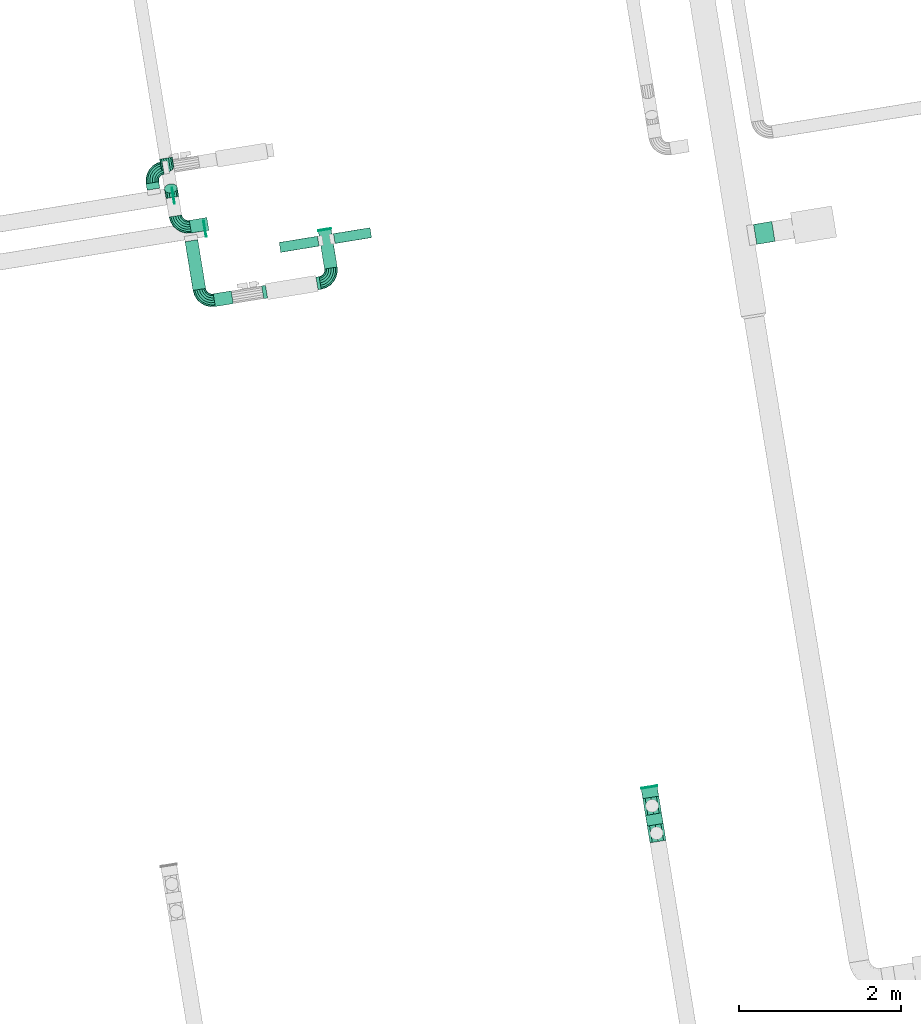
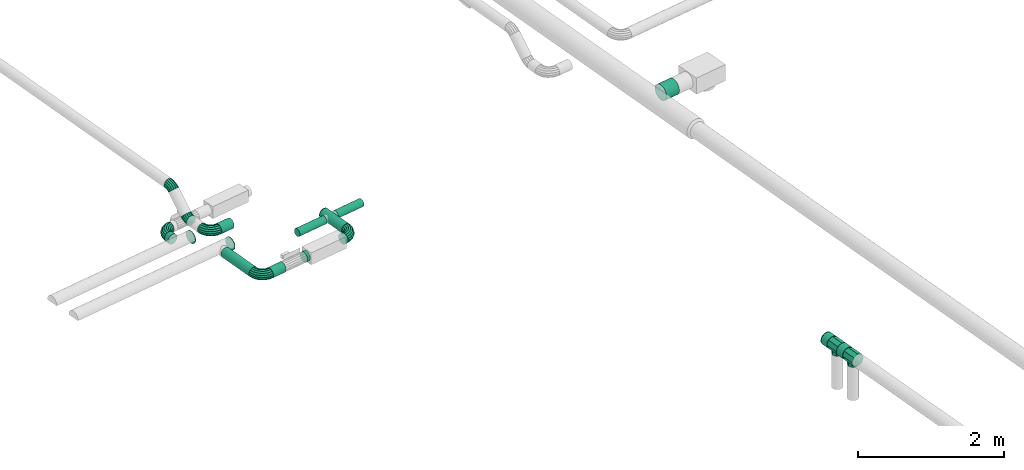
# One storey, part 6 of 19: 12 flow fittings, 12 flow segments.
"""IFC2X3 building model written with IfcOpenShell, lengths in millimetres."""

import ifcopenshell
import ifcopenshell.guid

model = None  # the IFC model being written
_history = None  # IfcOwnerHistory: only IFC2X3 demands one
_inside = {}  # id of a spatial element -> (the spatial element, [elements in it])
_under = {}  # id of a project, library or spatial element -> (it, [spatial elements below it])
_declared = {}  # id of a project -> (the project, [libraries it declares])
_typed = {}  # id of a type object -> (the type object, [elements of that type])
_made_of = {}  # id of a material, layer set ... -> (it, [elements and type objects made of it])


def new_model(schema):
    """Start an empty IFC model of exactly this schema.

    Asked for "IFC4X3", IfcOpenShell would pick the latest addendum, in which some entities
    have other attributes; the version numbers below select the first issue.
    IFC2X3 requires an IfcOwnerHistory on every rooted entity: one is made here for all.
    """
    global model, _history
    if schema == "IFC4X3":
        model = ifcopenshell.file(schema_version=(4, 3, 0, 0))
    else:
        model = ifcopenshell.file(schema=schema)
    _inside.clear()
    _under.clear()
    _declared.clear()
    _typed.clear()
    _made_of.clear()
    _history = None
    if model.schema == "IFC2X3":
        org = make("IfcOrganization", Name="unknown")
        user = make(
            "IfcPersonAndOrganization",
            ThePerson=make("IfcPerson", FamilyName="unknown"),
            TheOrganization=org,
        )
        app = make(
            "IfcApplication",
            ApplicationDeveloper=org,
            Version="unknown",
            ApplicationFullName="unknown",
            ApplicationIdentifier="unknown",
        )
        _history = make(
            "IfcOwnerHistory",
            OwningUser=user,
            OwningApplication=app,
            ChangeAction="ADDED",
            CreationDate=0,
        )
    return model


def make(cls, **values):
    """One entity of the class cls with the attributes given. An attribute that is None is left unset."""
    return model.create_entity(
        cls, **{name: value for name, value in values.items() if value is not None}
    )


def entity(cls, *values):
    """Any entity or typed value of the class cls, its attributes in the order of the schema. None: left unset."""
    e = model.create_entity(cls)
    for i, value in enumerate(values):
        if value is not None:
            e[i] = value
    return e


def rooted(cls, **values):
    """An entity with a GlobalId (a new one), such as an element, a storey or a relation."""
    return make(cls, GlobalId=ifcopenshell.guid.new(), OwnerHistory=_history, **values)


def si_unit(unit_type, name, prefix=None):
    """IfcSIUnit, for example si_unit("LENGTHUNIT", "METRE", prefix="MILLI")."""
    return make("IfcSIUnit", UnitType=unit_type, Prefix=prefix, Name=name)


def converted_unit(unit_type, name, factor, base, dimensions=None, offset=None):
    """IfcConversionBasedUnit, such as the inch: factor (a typed value) times the base unit."""
    return make(
        "IfcConversionBasedUnit"
        if offset is None
        else "IfcConversionBasedUnitWithOffset",
        ConversionOffset=offset,
        Dimensions=None
        if dimensions is None
        else entity("IfcDimensionalExponents", *dimensions),
        UnitType=unit_type,
        Name=name,
        ConversionFactor=make(
            "IfcMeasureWithUnit", ValueComponent=factor, UnitComponent=base
        ),
    )


def derived_unit(unit_type, elements):
    """IfcDerivedUnit: a product of units, each with its exponent."""
    return make(
        "IfcDerivedUnit",
        Elements=[
            make("IfcDerivedUnitElement", Unit=unit, Exponent=power)
            for unit, power in elements
        ],
        UnitType=unit_type,
    )


def assignment(units):
    """IfcUnitAssignment: the units of a project."""
    return None if units is None else make("IfcUnitAssignment", Units=units)


def point(xyz):
    """IfcCartesianPoint."""
    return None if xyz is None else make("IfcCartesianPoint", Coordinates=xyz)


def direction(xyz):
    """IfcDirection."""
    return None if xyz is None else make("IfcDirection", DirectionRatios=xyz)


def frame(location, z_axis=None, x_axis=None):
    """IfcAxis2Placement3D, a coordinate frame: its origin and axes. An axis left out is left unset."""
    return make(
        "IfcAxis2Placement3D",
        Location=point(location),
        Axis=direction(z_axis),
        RefDirection=direction(x_axis),
    )


def frame_2d(location, x_axis=None):
    """IfcAxis2Placement2D, a coordinate frame in the plane: its origin and x axis."""
    return make(
        "IfcAxis2Placement2D", Location=point(location), RefDirection=direction(x_axis)
    )


def origin():
    """The frame at (0, 0, 0) with its axes left unset."""
    return frame((0.0, 0.0, 0.0))


def origin_with_axes():
    """The frame at (0, 0, 0) with the z axis (0, 0, 1) and the x axis (1, 0, 0) written out."""
    return frame((0.0, 0.0, 0.0), z_axis=(0.0, 0.0, 1.0), x_axis=(1.0, 0.0, 0.0))


def origin_2d_with_axis():
    """The frame at (0, 0) in the plane with the x axis (1, 0) written out."""
    return frame_2d((0.0, 0.0), x_axis=(1.0, 0.0))


def place(relative_to, where):
    """IfcLocalPlacement: puts the frame where relative to a parent placement (None: the world)."""
    return make(
        "IfcLocalPlacement", PlacementRelTo=relative_to, RelativePlacement=where
    )


def context(
    kind, dimensions, precision=None, world=None, true_north=None, identifier=None
):
    """IfcGeometricRepresentationContext, for example the 3D "Model" context."""
    return make(
        "IfcGeometricRepresentationContext",
        ContextIdentifier=identifier,
        ContextType=kind,
        CoordinateSpaceDimension=dimensions,
        Precision=precision,
        WorldCoordinateSystem=world,
        TrueNorth=true_north,
    )


def subcontext(parent, identifier, kind, view, scale=None):
    """IfcGeometricRepresentationSubContext, for example "Body" below "Model"."""
    return make(
        "IfcGeometricRepresentationSubContext",
        ContextIdentifier=identifier,
        ContextType=kind,
        ParentContext=parent,
        TargetScale=scale,
        TargetView=view,
    )


def project(units=None, contexts=None):
    """IfcProject with its units and contexts."""
    return rooted(
        "IfcProject",
        Name="project",
        RepresentationContexts=contexts,
        UnitsInContext=assignment(units),
    )


def spatial(cls, under=None, at=None, **own):
    """A site, building, storey or space (cls), placed at a placement, below another one or the project."""
    s = rooted(cls, ObjectPlacement=at, **own)
    if under is not None:
        _under.setdefault(under.id(), (under, []))[1].append(s)
    return s


def profile(cls, at=None, kind="AREA", **sizes):
    """A parametric profile (cls). Its sizes go by their IFC names, for example OverallWidth=200.0."""
    return make(cls, ProfileType=kind, Position=at, **sizes)


def circle(**sizes):
    """IfcCircleProfileDef."""
    return profile("IfcCircleProfileDef", **sizes)


def extrude(swept, where, along, depth):
    """IfcExtrudedAreaSolid: the profile swept, set in the frame where, extruded along a direction by depth."""
    return make(
        "IfcExtrudedAreaSolid",
        SweptArea=swept,
        Position=where,
        ExtrudedDirection=direction(along),
        Depth=depth,
    )


def faces_of(points, faces, orient=None, outer=None):
    """IfcFace entities. A face is a list of loops; a loop is a list of indices into points, from 0.

    orient and outer hold one flag for each loop. By default every Orientation is true, the
    first loop of a face is its IfcFaceOuterBound and the others are IfcFaceBound.
    """
    made = []
    for i, loops in enumerate(faces):
        bounds = []
        for j, loop in enumerate(loops):
            is_outer = j == 0 if outer is None else outer[i][j]
            bounds.append(
                make(
                    "IfcFaceOuterBound" if is_outer else "IfcFaceBound",
                    Bound=make("IfcPolyLoop", Polygon=[points[k] for k in loop]),
                    Orientation=True if orient is None else orient[i][j],
                )
            )
        made.append(make("IfcFace", Bounds=bounds))
    return made


def faceted_brep(points, faces, orient=None, outer=None, voids=None):
    """IfcFacetedBrep: a solid bounded by flat faces; with voids (closed shells), ...WithVoids."""
    shared = [point(p) for p in points]
    hull = make("IfcClosedShell", CfsFaces=faces_of(shared, faces, orient, outer))
    if voids is None:
        return make("IfcFacetedBrep", Outer=hull)
    return make(
        "IfcFacetedBrepWithVoids",
        Outer=hull,
        Voids=[
            make(cls, CfsFaces=faces_of(shared, fs, o, b)) for cls, fs, o, b in voids
        ],
    )


def shape(context_of_items, identifier, shape_type, items):
    """IfcShapeRepresentation: the items that make up one representation, for example the "Body"."""
    return make(
        "IfcShapeRepresentation",
        ContextOfItems=context_of_items,
        RepresentationIdentifier=identifier,
        RepresentationType=shape_type,
        Items=items,
    )


def source(mapping_origin, context_of_items, identifier, shape_type, items):
    """IfcRepresentationMap: a shape defined once, which mapped items show again and again."""
    return make(
        "IfcRepresentationMap",
        MappingOrigin=mapping_origin,
        MappedRepresentation=shape(context_of_items, identifier, shape_type, items),
    )


def transform(
    local_origin,
    x_axis=None,
    y_axis=None,
    z_axis=None,
    scale=None,
    scale2=None,
    scale3=None,
    uniform=True,
):
    """IfcCartesianTransformationOperator3D, or its non-uniform kind. x_axis, y_axis, z_axis: its Axis1, 2, 3."""
    if uniform:
        return make(
            "IfcCartesianTransformationOperator3D",
            Axis1=direction(x_axis),
            Axis2=direction(y_axis),
            LocalOrigin=point(local_origin),
            Scale=scale,
            Axis3=direction(z_axis),
        )
    return make(
        "IfcCartesianTransformationOperator3DnonUniform",
        Axis1=direction(x_axis),
        Axis2=direction(y_axis),
        LocalOrigin=point(local_origin),
        Scale=scale,
        Axis3=direction(z_axis),
        Scale2=scale2,
        Scale3=scale3,
    )


def mapped(mapping_source, mapping_target):
    """IfcMappedItem: shows the shape of a source again, moved by a transform."""
    return make(
        "IfcMappedItem", MappingSource=mapping_source, MappingTarget=mapping_target
    )


def material(Name=None, Category=None):
    """IfcMaterial."""
    return make("IfcMaterial", Name=Name, Category=Category)


def made_of(thing, what):
    """Note that an element or type object is made of a material, layer set ...; save() writes the relation."""
    if what is not None:
        _made_of.setdefault(what.id(), (what, []))[1].append(thing)
    return thing


def type_object(cls, material=None, **own):
    """A type object (cls), such as IfcWallType, which elements share."""
    return made_of(rooted(cls, **own), material)


def element(
    cls,
    number,
    at=None,
    inside=None,
    cuts=None,
    type_object=None,
    material=None,
    context=None,
    identifier="Body",
    shape_type=None,
    held_by="IfcProductDefinitionShape",
    body=None,
    shapes=None,
    **own,
):
    """One element of the class cls, such as IfcWall. Its Tag is "e" and its number.

    at: its placement. inside: the storey or other place that contains it. cuts: it is an
    opening in that element (IfcRelVoidsElement). A single representation is given by context,
    identifier, shape_type and body (its items); several are given by shapes. held_by: the class
    of the entity that holds the representations. save() writes the other relations.
    """
    e = rooted(cls, Tag="e%d" % number, ObjectPlacement=at, **own)
    if body is not None:
        shapes = [shape(context, identifier, shape_type, body)]
    if shapes is not None:
        e.Representation = make(held_by, Representations=shapes)
    if inside is not None:
        _inside.setdefault(inside.id(), (inside, []))[1].append(e)
    if cuts is not None:
        rooted(
            "IfcRelVoidsElement", RelatingBuildingElement=cuts, RelatedOpeningElement=e
        )
    if type_object is not None:
        _typed.setdefault(type_object.id(), (type_object, []))[1].append(e)
    return made_of(e, material)


def aggregate(whole, parts):
    """IfcRelAggregates: a whole, such as a stair, and the parts it consists of."""
    return rooted("IfcRelAggregates", RelatingObject=whole, RelatedObjects=parts)


def save(model, path):
    """Write the relations noted so far, then the file.

    IfcRelAggregates (storeys below a building ...), IfcRelContainedInSpatialStructure (elements
    in a storey), IfcRelDefinesByType, IfcRelAssociatesMaterial and IfcRelDeclares: one each for
    every whole, place, type object, material and project.
    """
    for whole, parts in _under.values():
        aggregate(whole, parts)
    for where, things in _inside.values():
        rooted(
            "IfcRelContainedInSpatialStructure",
            RelatedElements=things,
            RelatingStructure=where,
        )
    for kind, things in _typed.values():
        rooted("IfcRelDefinesByType", RelatedObjects=things, RelatingType=kind)
    for what, things in _made_of.values():
        rooted("IfcRelAssociatesMaterial", RelatedObjects=things, RelatingMaterial=what)
    for by, libraries in _declared.values():
        rooted("IfcRelDeclares", RelatingContext=by, RelatedDefinitions=libraries)
    model.write(path)


model = new_model("IFC2X3")

# Units and contexts
model_context = context("Model", 3, precision=0.01, world=origin(), true_north=direction((6.12323399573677e-17, 1.0)))
plan_context = context("Plan", 3, precision=1e-05, world=origin_with_axes())
body_context = subcontext(model_context, "Body", "Model", "MODEL_VIEW")
ifc_project = project(units=[converted_unit("PLANEANGLEUNIT", "DEGREE", entity("IfcPositiveLengthMeasure", 0.0174532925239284), si_unit("PLANEANGLEUNIT", "RADIAN"), dimensions=[0, 0, 0, 0, 0, 0, 0]), si_unit("AREAUNIT", "SQUARE_METRE"), si_unit("LENGTHUNIT", "METRE", prefix="MILLI"), si_unit("MASSUNIT", "GRAM", prefix="KILO"), si_unit("POWERUNIT", "WATT"), si_unit("PRESSUREUNIT", "PASCAL", prefix="KILO"), si_unit("FORCEUNIT", "NEWTON", prefix="KILO"), si_unit("ELECTRICVOLTAGEUNIT", "VOLT"), si_unit("ELECTRICCURRENTUNIT", "AMPERE"), si_unit("THERMODYNAMICTEMPERATUREUNIT", "DEGREE_CELSIUS"), si_unit("TIMEUNIT", "SECOND"), si_unit("VOLUMEUNIT", "CUBIC_METRE"), derived_unit("LINEARVELOCITYUNIT", [(si_unit("LENGTHUNIT", "METRE"), 1), (si_unit("TIMEUNIT", "SECOND"), -1)]), derived_unit("VOLUMETRICFLOWRATEUNIT", [(si_unit("VOLUMEUNIT", "CUBIC_METRE"), 1), (si_unit("TIMEUNIT", "SECOND"), -1)]), derived_unit("THERMALTRANSMITTANCEUNIT", [(si_unit("POWERUNIT", "WATT"), 1), (si_unit("THERMODYNAMICTEMPERATUREUNIT", "KELVIN"), -1), (si_unit("AREAUNIT", "SQUARE_METRE"), -1)]), derived_unit("SOUNDPRESSUREUNIT", [(si_unit("PRESSUREUNIT", "PASCAL"), 1)])], contexts=[model_context, plan_context])

# Site, building, storey
site_placement = place(None, frame((5.09380697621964e-08, 5.80416781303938e-08, 0.0), z_axis=(0.0, 0.0, 1.0), x_axis=(-0.160806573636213, 0.986985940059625, 0.0)))
site = spatial("IfcSite", under=ifc_project, at=site_placement, Name="Default", CompositionType="ELEMENT")
building_placement = place(site_placement, frame((0.0, 0.0, 0.0), z_axis=(0.0, 0.0, 1.0), x_axis=(1.0, -2.77555756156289e-17, 0.0)))
building = spatial("IfcBuilding", under=site, at=building_placement, Name="Bygning (endres i Project Information)", CompositionType="ELEMENT")
storey_placement = place(building_placement, frame((0.0, 0.0, 51360.0000000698), z_axis=(0.0, 0.0, 1.0), x_axis=(1.0, -2.77555756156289e-17, 0.0)))
storey = spatial("IfcBuildingStorey", under=building, at=storey_placement, Name="H01-Nivå D+0,36", CompositionType="ELEMENT", Elevation=51360.0000000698)

# Flow fittings
ifc_material_1 = material(Name="DF_Material1")
duct_fitting_type_1 = type_object("IfcDuctFittingType", Name="Lindab TCPU:TCPU", PredefinedType="NOTDEFINED", material=ifc_material_1)
shared_shape_1 = source(origin(), body_context, "Body", "Brep", [
    faceted_brep([(80.0000001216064, -125.0, 0.0), (56.5685425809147, -125.0, 56.5685425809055), (0.0, -125.0, 80.0000001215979), (-56.5685425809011, -125.0, 56.5685425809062), (-80.0000001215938, -125.0, 0.0), (-56.568542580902, -125.0, -56.5685425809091), (0.0, -125.0, -80.0000001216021), (56.568542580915, -125.0, -56.568542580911), (-60.636107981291, -85.3037959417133, 52.1848869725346), (0.0, -60.0000000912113, 80.0000001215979), (-80.0000001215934, -100.000000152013, 0.0), (-70.3180540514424, -92.6518980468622, 26.092443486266), (-65.5820813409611, -89.4264237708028, -30.7499125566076), (-51.1641625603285, -78.852847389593, -61.4998251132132), (0.0, -60.0000000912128, -80.0000001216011), (60.6361079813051, -85.303795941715, -52.1848869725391), (80.0000001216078, -100.000000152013, 0.0), (70.3180540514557, -92.651898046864, -26.0924434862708), (65.5794107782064, -89.424691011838, 30.7521341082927), (51.1588214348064, -78.8493818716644, 61.504268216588), (-104.499999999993, -100.000000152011, 0.0), (-104.499999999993, -92.6776696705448, 17.677669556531), (-104.499999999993, -85.3553391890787, 35.3553391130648), (-104.499999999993, -70.7106782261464, 70.7106782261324), (-104.499999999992, 0.0, 100.000000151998), (-104.499999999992, 70.7106782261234, 70.7106782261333), (-104.499999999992, 100.000000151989, 0.0), (-104.499999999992, 70.7106782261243, -70.7106782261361), (-104.499999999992, 0.0, -100.000000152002), (-104.499999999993, -70.7106782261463, -70.7106782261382), (-104.499999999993, -85.3553391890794, -35.3553391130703), (104.500000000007, -70.7106782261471, 70.7106782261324), (104.500000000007, -85.3553391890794, 35.3553391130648), (104.500000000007, -100.000000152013, 0.0), (104.500000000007, -92.6776696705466, -17.6776695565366), (104.500000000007, -85.3553391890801, -35.3553391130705), (104.500000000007, -70.710678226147, -70.7106782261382), (104.500000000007, 0.0, -100.000000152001), (104.500000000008, 70.7106782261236, -70.7106782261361), (104.500000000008, 100.000000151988, 0.0), (104.500000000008, 70.7106782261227, 70.7106782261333), (104.500000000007, 0.0, 100.000000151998)], [[[0, 1, 2, 3, 4, 5, 6, 7]], [[2, 8, 3]], [[8, 2, 9]], [[10, 4, 3]], [[3, 8, 11, 10]], [[4, 10, 5]], [[5, 10, 12, 13]], [[13, 14, 6]], [[13, 6, 5]], [[6, 15, 7]], [[15, 6, 14]], [[16, 0, 7]], [[7, 15, 17, 16]], [[0, 16, 1]], [[1, 16, 18, 19]], [[19, 9, 2]], [[19, 2, 1]], [[20, 21, 22, 23, 24, 25, 26, 27, 28, 29, 30]], [[31, 32, 33, 34, 35, 36, 37, 38, 39, 40, 41]], [[24, 41, 40, 25]], [[40, 39, 26, 25]], [[39, 38, 27, 26]], [[38, 37, 28, 27]], [[37, 36, 14]], [[28, 14, 29]], [[14, 28, 37]], [[13, 29, 14]], [[17, 35, 34]], [[14, 36, 15]], [[35, 17, 15]], [[34, 16, 17]], [[30, 13, 12]], [[20, 30, 12]], [[15, 36, 35]], [[16, 34, 33]], [[13, 30, 29]], [[20, 12, 10]], [[11, 22, 21]], [[33, 18, 16]], [[11, 8, 22]], [[10, 21, 20]], [[32, 19, 18]], [[21, 10, 11]], [[32, 18, 33]], [[9, 19, 31]], [[31, 19, 32]], [[9, 31, 41]], [[23, 9, 24]], [[23, 8, 9]], [[24, 9, 41]], [[8, 23, 22]]]),
])
for number, where, z_axis, x_axis in (
    (1, (1000004.89913365, -391132.73177938, 3820.00000015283), (-2.77555756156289e-17, -1.0, 0.0), (1.0, -2.77555756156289e-17, 0.0)),
    (2, (1000347.1737039, -391132.73177938, 3820.00000015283), (-2.77555756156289e-17, -1.0, 0.0), (1.0, -2.77555756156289e-17, 0.0)),
):
    element("IfcFlowFitting", number, at=place(storey_placement, frame(where, z_axis=z_axis, x_axis=x_axis)), inside=storey, type_object=duct_fitting_type_1, material=ifc_material_1, Name="Lindab TCPU:TCPU", ObjectType="Lindab TCPU:TCPU", context=body_context, shape_type="MappedRepresentation", body=[
        mapped(shared_shape_1, transform((0.0, 0.0, 0.0), scale=1.0)),
    ])
duct_fitting_type_2 = type_object("IfcDuctFittingType", Name="Lindab ESU:ESU", PredefinedType="NOTDEFINED", material=ifc_material_1)
shared_shape_2 = source(origin(), body_context, "Body", "SweptSolid", [
    extrude(circle(Radius=100.000000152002, at=frame_2d((-1.7386373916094e-13, -5.59979039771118e-13), x_axis=(1.0, 0.0))), frame((0.0, 0.0, 0.0), z_axis=(1.0, 0.0, 0.0), x_axis=(0.0, 1.0, 0.0)), (0.0, 0.0, 1.0), 10.0000000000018),
])
for number, where, z_axis, x_axis in (
    (3, (1000575.1737039, -391132.73177938, 3820.00000015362), (0.0, 0.0, 1.0), (1.0, -2.77555756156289e-17, 0.0)),
    (4, (1008255.86764294, -386829.918778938, 3150.0), (0.0, 0.0, 1.0), (-2.77555756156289e-17, -1.0, 0.0)),
    (5, (1008718.36764294, -386509.918778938, 3150.0), (0.0, 0.0, 1.0), (-2.77555756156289e-17, -1.0, 0.0)),
):
    element("IfcFlowFitting", number, at=place(storey_placement, frame(where, z_axis=z_axis, x_axis=x_axis)), inside=storey, type_object=duct_fitting_type_2, material=ifc_material_1, Name="Lindab ESU:ESU", ObjectType="Lindab ESU:ESU", context=body_context, shape_type="MappedRepresentation", body=[
        mapped(shared_shape_2, transform((0.0, 0.0, 0.0), scale=1.0)),
    ])
ifc_material_2 = material(Name="3601.001 Tilluft")
duct_fitting_type_3 = type_object("IfcDuctFittingType", Name="magicirc_elbow_full_radius_NOR:magicirc_elbow_full_radius_NOR", PredefinedType="NOTDEFINED", material=ifc_material_2)
shared_shape_3 = source(origin(), body_context, "Body", "Brep", [
    faceted_brep([(-4.15759916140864, -71.822198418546, 0.0), (-5.73371330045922, -65.9400603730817, 30.6146746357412), (-66.2741700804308, -73.9103627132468, 30.6146746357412), (-66.2741700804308, -80.0000001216, 0.0), (-10.2221066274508, -49.1891484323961, 56.5685425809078), (-66.2741700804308, -56.5685425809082, 56.5685425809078), (-16.9394619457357, -24.1196370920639, 73.9103627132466), (-66.2741700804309, -30.6146746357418, 73.9103627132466), (-24.8631228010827, 5.45186780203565, 80.0000001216), (-66.2741700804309, 0.0, 80.0000001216), (-32.7867836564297, 35.0233726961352, 73.9103627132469), (-66.274170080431, 30.6146746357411, 73.9103627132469), (-39.5041389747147, 60.0928840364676, 56.5685425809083), (-66.274170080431, 56.5685425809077, 56.5685425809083), (-43.9925323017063, 76.8437959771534, 30.6146746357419), (-66.274170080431, 73.9103627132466, 30.6146746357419), (-45.5686464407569, 82.725934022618, 0.0), (-66.274170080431, 80.0000001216, 0.0), (-43.9925323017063, 76.8437959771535, -30.6146746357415), (-66.274170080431, 73.9103627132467, -30.6146746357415), (-39.5041389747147, 60.0928840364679, -56.568542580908), (-66.274170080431, 56.568542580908, -56.568542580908), (-32.7867836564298, 35.0233726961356, -73.9103627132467), (-66.274170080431, 30.6146746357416, -73.9103627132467), (-24.8631228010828, 5.45186780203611, -80.0000001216), (-66.2741700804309, 0.0, -80.0000001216), (-16.9394619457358, -24.1196370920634, -73.9103627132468), (-66.2741700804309, -30.6146746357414, -73.9103627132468), (-10.2221066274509, -49.1891484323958, -56.5685425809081), (-66.2741700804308, -56.5685425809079, -56.5685425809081), (-5.73371330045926, -65.9400603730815, -30.6146746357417), (-66.2741700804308, -73.9103627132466, -30.6146746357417), (53.7258301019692, -47.8460969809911, 0.0), (50.6810113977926, -42.5723162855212, 30.6146746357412), (42.0101013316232, -27.5538595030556, 56.5685425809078), (29.03316735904, -5.07715053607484, 73.9103627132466), (13.7258300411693, 21.4359354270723, 80.0000001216), (-1.58150727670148, 47.9490213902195, 73.9103627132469), (-14.5584412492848, 70.4257303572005, 56.5685425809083), (-23.2293513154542, 85.4441871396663, 30.6146746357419), (-26.274170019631, 90.7179678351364, 0.0), (-23.2293513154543, 85.4441871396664, -30.6146746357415), (-14.558441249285, 70.4257303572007, -56.568542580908), (-1.5815072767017, 47.9490213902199, -73.9103627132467), (13.725830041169, 21.4359354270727, -80.0000001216), (29.0331673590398, -5.07715053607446, -73.9103627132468), (42.0101013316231, -27.5538595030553, -56.5685425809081), (50.6810113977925, -42.5723162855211, -30.6146746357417), (103.431457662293, -9.70562749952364, 0.0), (99.1254337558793, -5.39960359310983, 30.6146746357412), (86.8629151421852, 6.86291502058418, 56.5685425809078), (68.5107591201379, 25.2150710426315, 73.9103627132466), (46.8629150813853, 46.8629150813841, 80.0000001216), (25.2150710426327, 68.5107591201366, 73.9103627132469), (6.86291502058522, 86.8629151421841, 56.5685425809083), (-5.39960359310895, 99.1254337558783, 30.6146746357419), (-9.70562749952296, 103.431457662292, 0.0), (-5.39960359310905, 99.1254337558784, -30.6146746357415), (6.86291502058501, 86.8629151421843, -56.568542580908), (25.2150710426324, 68.510759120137, -73.9103627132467), (46.862915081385, 46.8629150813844, -80.0000001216), (68.5107591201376, 25.2150710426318, -73.9103627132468), (86.862915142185, 6.8629150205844, -56.5685425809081), (99.1254337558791, -5.3996035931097, -30.6146746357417)], [[[0, 1, 2, 3]], [[1, 4, 5, 2]], [[4, 6, 7, 5]], [[6, 8, 9, 7]], [[8, 10, 11, 9]], [[10, 12, 13, 11]], [[12, 14, 15, 13]], [[14, 16, 17, 15]], [[16, 18, 19, 17]], [[18, 20, 21, 19]], [[20, 22, 23, 21]], [[22, 24, 25, 23]], [[24, 26, 27, 25]], [[26, 28, 29, 27]], [[28, 30, 31, 29]], [[30, 0, 3, 31]], [[32, 33, 1, 0]], [[33, 34, 4, 1]], [[34, 35, 6, 4]], [[35, 36, 8, 6]], [[36, 37, 10, 8]], [[37, 38, 12, 10]], [[38, 39, 14, 12]], [[39, 40, 16, 14]], [[40, 41, 18, 16]], [[41, 42, 20, 18]], [[42, 43, 22, 20]], [[43, 44, 24, 22]], [[44, 45, 26, 24]], [[45, 46, 28, 26]], [[46, 47, 30, 28]], [[47, 32, 0, 30]], [[48, 49, 33, 32]], [[49, 50, 34, 33]], [[50, 51, 35, 34]], [[51, 52, 36, 35]], [[52, 53, 37, 36]], [[53, 54, 38, 37]], [[54, 55, 39, 38]], [[55, 56, 40, 39]], [[56, 57, 41, 40]], [[57, 58, 42, 41]], [[58, 59, 43, 42]], [[59, 60, 44, 43]], [[60, 61, 45, 44]], [[61, 62, 46, 45]], [[62, 63, 47, 46]], [[63, 48, 32, 47]], [[3, 2, 5, 7, 9, 11, 13, 15, 17, 19, 21, 23, 25, 27, 29, 31]], [[63, 62, 61, 60, 59, 58, 57, 56, 55, 54, 53, 52, 51, 50, 49, 48]]]),
])
for number, where, z_axis, x_axis, name in (
    (6, (1009123.99004626, -386501.39713563, 3799.99999996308), (-2.77555756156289e-17, -1.0, 0.0), (-1.0, 2.77555756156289e-17, 0.0), "magicirc_elbow_full_radius_NOR:magicirc_elbow_full_radius_NOR"),
    (7, (1008765.35022764, -386501.39713563, 3441.36018133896), (0.0, 1.0, 0.0), (-0.707106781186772, 0.0, -0.707106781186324), "magicirc_elbow_full_radius_NOR:magicirc_elbow_full_radius_NOR"),
):
    element("IfcFlowFitting", number, at=place(storey_placement, frame(where, z_axis=z_axis, x_axis=x_axis)), inside=storey, type_object=duct_fitting_type_3, material=ifc_material_2, Name=name, ObjectType="magicirc_elbow_full_radius_NOR:magicirc_elbow_full_radius_NOR", context=body_context, shape_type="MappedRepresentation", body=[
        mapped(shared_shape_3, transform((0.0, 0.0, 0.0), scale=1.0)),
    ])
duct_fitting_type_4 = type_object("IfcDuctFittingType", Name="magicirc_elbow_full_radius_NOR:magicirc_elbow_full_radius_NOR", PredefinedType="NOTDEFINED", material=ifc_material_2)
shared_shape_4 = source(origin(), body_context, "Body", "Brep", [
    faceted_brep([(-97.8834293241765, -71.822198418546, 0.0), (-99.4595434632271, -65.9400603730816, 30.6146746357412), (-160.000000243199, -73.9103627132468, 30.6146746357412), (-160.000000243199, -80.0000001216, 0.0), (-103.947936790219, -49.189148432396, 56.5685425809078), (-160.000000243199, -56.5685425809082, 56.5685425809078), (-110.665292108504, -24.1196370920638, 73.9103627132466), (-160.000000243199, -30.6146746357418, 73.9103627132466), (-118.588952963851, 5.45186780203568, 80.0000001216), (-160.000000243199, 0.0, 80.0000001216), (-126.512613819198, 35.0233726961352, 73.9103627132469), (-160.000000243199, 30.6146746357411, 73.9103627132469), (-133.229969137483, 60.0928840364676, 56.5685425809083), (-160.000000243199, 56.5685425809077, 56.5685425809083), (-137.718362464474, 76.8437959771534, 30.6146746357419), (-160.000000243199, 73.9103627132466, 30.6146746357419), (-139.294476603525, 82.725934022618, 0.0), (-160.000000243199, 80.0000001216, 0.0), (-137.718362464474, 76.8437959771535, -30.6146746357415), (-160.000000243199, 73.9103627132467, -30.6146746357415), (-133.229969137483, 60.0928840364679, -56.568542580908), (-160.000000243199, 56.568542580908, -56.568542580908), (-126.512613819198, 35.0233726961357, -73.9103627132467), (-160.000000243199, 30.6146746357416, -73.9103627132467), (-118.588952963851, 5.45186780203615, -80.0000001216), (-160.000000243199, 0.0, -80.0000001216), (-110.665292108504, -24.1196370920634, -73.9103627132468), (-160.000000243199, -30.6146746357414, -73.9103627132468), (-103.947936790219, -49.1891484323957, -56.5685425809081), (-160.000000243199, -56.5685425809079, -56.5685425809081), (-99.4595434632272, -65.9400603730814, -30.6146746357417), (-160.000000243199, -73.9103627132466, -30.6146746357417), (-40.0000000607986, -47.846096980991, 0.0), (-43.0448187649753, -42.5723162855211, 30.6146746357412), (-51.7157288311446, -27.5538595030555, 56.5685425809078), (-64.6926628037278, -5.07715053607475, 73.9103627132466), (-80.0000001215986, 21.4359354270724, 80.0000001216), (-95.3073374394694, 47.9490213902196, 73.9103627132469), (-108.284271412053, 70.4257303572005, 56.5685425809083), (-116.955181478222, 85.4441871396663, 30.6146746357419), (-120.000000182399, 90.7179678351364, 0.0), (-116.955181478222, 85.4441871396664, -30.6146746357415), (-108.284271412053, 70.4257303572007, -56.568542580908), (-95.3073374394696, 47.94902139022, -73.9103627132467), (-80.0000001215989, 21.4359354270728, -80.0000001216), (-64.6926628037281, -5.07715053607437, -73.9103627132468), (-51.7157288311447, -27.5538595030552, -56.5685425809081), (-43.0448187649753, -42.5723162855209, -30.6146746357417), (9.70562749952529, -9.70562749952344, 0.0), (5.39960359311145, -5.39960359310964, 30.6146746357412), (-6.86291502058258, 6.86291502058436, 56.5685425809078), (-25.21507104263, 25.2150710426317, 73.9103627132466), (-46.8629150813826, 46.8629150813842, 80.0000001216), (-68.5107591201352, 68.5107591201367, 73.9103627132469), (-86.8629151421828, 86.8629151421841, 56.5685425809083), (-99.125433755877, 99.1254337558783, 30.6146746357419), (-103.431457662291, 103.431457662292, 0.0), (-99.1254337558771, 99.1254337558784, -30.6146746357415), (-86.862915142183, 86.8629151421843, -56.568542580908), (-68.5107591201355, 68.510759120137, -73.9103627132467), (-46.8629150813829, 46.8629150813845, -80.0000001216), (-25.2150710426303, 25.215071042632, -73.9103627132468), (-6.8629150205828, 6.86291502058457, -56.5685425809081), (5.39960359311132, -5.39960359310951, -30.6146746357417), (47.8460969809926, 40.0000000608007, 0.0), (42.5723162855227, 43.0448187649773, 30.6146746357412), (27.553859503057, 51.7157288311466, 56.5685425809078), (5.07715053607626, 64.6926628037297, 73.9103627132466), (-21.435935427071, 80.0000001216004, 80.0000001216), (-47.9490213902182, 95.307337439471, 73.9103627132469), (-70.4257303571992, 108.284271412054, 56.5685425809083), (-85.444187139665, 116.955181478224, 30.6146746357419), (-90.7179678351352, 120.0000001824, 0.0), (-85.4441871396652, 116.955181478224, -30.6146746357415), (-70.4257303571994, 108.284271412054, -56.568542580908), (-47.9490213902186, 95.3073374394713, -73.9103627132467), (-21.4359354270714, 80.0000001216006, -80.0000001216), (5.07715053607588, 64.6926628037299, -73.9103627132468), (27.5538595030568, 51.7157288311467, -56.5685425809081), (42.5723162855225, 43.0448187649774, -30.6146746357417), (71.8221984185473, 97.8834293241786, 0.0), (65.9400603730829, 99.4595434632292, 30.6146746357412), (49.1891484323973, 103.947936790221, 56.5685425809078), (24.1196370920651, 110.665292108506, 73.9103627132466), (-5.45186780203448, 118.588952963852, 80.0000001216), (-35.0233726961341, 126.512613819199, 73.9103627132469), (-60.0928840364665, 133.229969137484, 56.5685425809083), (-76.8437959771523, 137.718362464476, 30.6146746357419), (-82.7259340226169, 139.294476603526, 0.0), (-76.8437959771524, 137.718362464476, -30.6146746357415), (-60.0928840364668, 133.229969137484, -56.568542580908), (-35.0233726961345, 126.512613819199, -73.9103627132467), (-5.45186780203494, 118.588952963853, -80.0000001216), (24.1196370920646, 110.665292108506, -73.9103627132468), (49.189148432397, 103.947936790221, -56.5685425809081), (65.9400603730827, 99.4595434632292, -30.6146746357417), (80.000000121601, 160.000000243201, 0.0), (73.9103627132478, 160.000000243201, 30.6146746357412), (56.5685425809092, 160.000000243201, 56.5685425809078), (30.6146746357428, 160.000000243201, 73.9103627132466), (0.0, 160.000000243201, 80.0000001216), (-30.6146746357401, 160.000000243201, 73.9103627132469), (-56.5685425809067, 160.000000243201, 56.5685425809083), (-73.9103627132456, 160.000000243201, 30.6146746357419), (-80.000000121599, 160.000000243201, 0.0), (-73.9103627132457, 160.000000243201, -30.6146746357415), (-56.568542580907, 160.000000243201, -56.568542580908), (-30.6146746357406, 160.000000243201, -73.9103627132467), (0.0, 160.000000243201, -80.0000001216), (30.6146746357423, 160.000000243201, -73.9103627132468), (56.5685425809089, 160.000000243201, -56.5685425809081), (73.9103627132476, 160.000000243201, -30.6146746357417)], [[[0, 1, 2, 3]], [[1, 4, 5, 2]], [[4, 6, 7, 5]], [[6, 8, 9, 7]], [[8, 10, 11, 9]], [[10, 12, 13, 11]], [[12, 14, 15, 13]], [[14, 16, 17, 15]], [[16, 18, 19, 17]], [[18, 20, 21, 19]], [[20, 22, 23, 21]], [[22, 24, 25, 23]], [[24, 26, 27, 25]], [[26, 28, 29, 27]], [[28, 30, 31, 29]], [[30, 0, 3, 31]], [[32, 33, 1, 0]], [[33, 34, 4, 1]], [[34, 35, 6, 4]], [[35, 36, 8, 6]], [[36, 37, 10, 8]], [[37, 38, 12, 10]], [[38, 39, 14, 12]], [[39, 40, 16, 14]], [[40, 41, 18, 16]], [[41, 42, 20, 18]], [[42, 43, 22, 20]], [[43, 44, 24, 22]], [[44, 45, 26, 24]], [[45, 46, 28, 26]], [[46, 47, 30, 28]], [[47, 32, 0, 30]], [[48, 49, 33, 32]], [[49, 50, 34, 33]], [[50, 51, 35, 34]], [[51, 52, 36, 35]], [[52, 53, 37, 36]], [[53, 54, 38, 37]], [[54, 55, 39, 38]], [[55, 56, 40, 39]], [[56, 57, 41, 40]], [[57, 58, 42, 41]], [[58, 59, 43, 42]], [[59, 60, 44, 43]], [[60, 61, 45, 44]], [[61, 62, 46, 45]], [[62, 63, 47, 46]], [[63, 48, 32, 47]], [[64, 65, 49, 48]], [[65, 66, 50, 49]], [[66, 67, 51, 50]], [[67, 68, 52, 51]], [[68, 69, 53, 52]], [[69, 70, 54, 53]], [[70, 71, 55, 54]], [[71, 72, 56, 55]], [[72, 73, 57, 56]], [[73, 74, 58, 57]], [[74, 75, 59, 58]], [[75, 76, 60, 59]], [[76, 77, 61, 60]], [[77, 78, 62, 61]], [[78, 79, 63, 62]], [[79, 64, 48, 63]], [[80, 81, 65, 64]], [[81, 82, 66, 65]], [[82, 83, 67, 66]], [[83, 84, 68, 67]], [[84, 85, 69, 68]], [[85, 86, 70, 69]], [[86, 87, 71, 70]], [[87, 88, 72, 71]], [[88, 89, 73, 72]], [[89, 90, 74, 73]], [[90, 91, 75, 74]], [[91, 92, 76, 75]], [[92, 93, 77, 76]], [[93, 94, 78, 77]], [[94, 95, 79, 78]], [[95, 80, 64, 79]], [[96, 97, 81, 80]], [[97, 98, 82, 81]], [[98, 99, 83, 82]], [[99, 100, 84, 83]], [[100, 101, 85, 84]], [[101, 102, 86, 85]], [[102, 103, 87, 86]], [[103, 104, 88, 87]], [[104, 105, 89, 88]], [[105, 106, 90, 89]], [[106, 107, 91, 90]], [[107, 108, 92, 91]], [[108, 109, 93, 92]], [[109, 110, 94, 93]], [[110, 111, 95, 94]], [[111, 96, 80, 95]], [[3, 2, 5, 7, 9, 11, 13, 15, 17, 19, 21, 23, 25, 27, 29, 31]], [[111, 110, 109, 108, 107, 106, 105, 104, 103, 102, 101, 100, 99, 98, 97, 96]]]),
])
for number, where, z_axis, x_axis, name in (
    (8, (1008308.49004626, -386501.39713563, 3441.3601817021), (0.0, 0.0, 1.0), (-1.0, 2.77555756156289e-17, 0.0), "magicirc_elbow_full_radius_NOR:magicirc_elbow_full_radius_NOR"),
    (9, (1009078.36764293, -386287.343203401, 3150.0), (0.0, 0.0, 1.0), (2.77555756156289e-17, 1.0, 0.0), "magicirc_elbow_full_radius_NOR:magicirc_elbow_full_radius_NOR"),
    (10, (1007366.69116253, -388289.812917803, 3150.0), (0.0, 0.0, 1.0), (-2.77555756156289e-17, -1.0, 0.0), "magicirc_elbow_full_radius_NOR:magicirc_elbow_full_radius_NOR"),
    (11, (1007366.69116253, -386647.343203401, 3150.0), (0.0, 0.0, 1.0), (-1.0, 2.77555756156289e-17, 0.0), "magicirc_elbow_full_radius_NOR:magicirc_elbow_full_radius_NOR"),
):
    element("IfcFlowFitting", number, at=place(storey_placement, frame(where, z_axis=z_axis, x_axis=x_axis)), inside=storey, type_object=duct_fitting_type_4, material=ifc_material_2, Name=name, ObjectType="magicirc_elbow_full_radius_NOR:magicirc_elbow_full_radius_NOR", context=body_context, shape_type="MappedRepresentation", body=[
        mapped(shared_shape_4, transform((0.0, 0.0, 0.0), scale=1.0)),
    ])
duct_fitting_type_5 = type_object("IfcDuctFittingType", Name="Lindab ESU:ESU", PredefinedType="NOTDEFINED", material=ifc_material_1)
shared_shape_5 = source(origin(), body_context, "Body", "SweptSolid", [
    extrude(circle(Radius=80.0000001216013, at=frame_2d((3.79414923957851e-15, 3.2423154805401e-13), x_axis=(1.0, 0.0))), frame((0.0, 0.0, 0.0), z_axis=(1.0, 0.0, 0.0), x_axis=(0.0, -1.0, 0.0)), (0.0, 0.0, 1.0), 10.0000000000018),
])
flow_fitting_placement = place(storey_placement, frame((1008001.90440273, -388289.812917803, 3150.0), z_axis=(0.0, 0.0, 1.0), x_axis=(1.0, -2.77555756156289e-17, 0.0)))
element("IfcFlowFitting", 12, at=flow_fitting_placement, inside=storey, type_object=duct_fitting_type_5, material=ifc_material_1, Name="Lindab ESU:ESU", ObjectType="Lindab ESU:ESU", context=body_context, shape_type="MappedRepresentation", body=[
    mapped(shared_shape_5, transform((0.0, 0.0, 0.0), scale=1.0)),
])

# Flow segments
duct_segment_type = type_object("IfcDuctSegmentType", Name="Round Duct:Sirkulær kanal", PredefinedType="NOTDEFINED", material=ifc_material_2)
flow_segment_1_placement = place(storey_placement, frame((0.0, 0.0, 0.0), z_axis=(0.0, 0.0, 1.0), x_axis=(1.0, -2.77555756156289e-17, 0.0)))
element("IfcFlowSegment", 13, at=flow_segment_1_placement, inside=storey, type_object=duct_segment_type, Name="Round Duct:Sirkulær kanal", ObjectType="Round Duct:Sirkulær kanal", context=body_context, shape_type="SweptSolid", body=[
    extrude(circle(Radius=100.000000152, at=frame_2d((0.0, -8.66293703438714e-12), x_axis=(1.0, 0.0))), frame((1000109.39913365, -391132.73177938, 3820.00000015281), z_axis=(1.0, 0.0, 0.0), x_axis=(0.0, 1.0, 0.0)), (0.0, 0.0, 1.0), 133.274570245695),
])
flow_segment_2_placement = place(storey_placement, frame((0.0, 0.0, 0.0), z_axis=(0.0, 0.0, 1.0), x_axis=(1.0, -2.77555756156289e-17, 0.0)))
element("IfcFlowSegment", 14, at=flow_segment_2_placement, inside=storey, type_object=duct_segment_type, Name="Round Duct:Sirkulær kanal", ObjectType="Round Duct:Sirkulær kanal", context=body_context, shape_type="SweptSolid", body=[
    extrude(circle(Radius=100.000000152, at=frame_2d((0.0, -8.66293703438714e-12), x_axis=(1.0, 0.0))), frame((1000451.6737039, -391132.73177938, 3820.00000015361), z_axis=(1.0, 0.0, 0.0), x_axis=(0.0, -1.0, 0.0)), (0.0, 0.0, 1.0), 123.499999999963),
])
flow_segment_3_placement = place(storey_placement, frame((0.0, 0.0, 0.0), z_axis=(0.0, 0.0, 1.0), x_axis=(1.0, -2.77555756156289e-17, 0.0)))
element("IfcFlowSegment", 15, at=flow_segment_3_placement, inside=storey, type_object=duct_segment_type, Name="Round Duct:Sirkulær kanal", ObjectType="Round Duct:Sirkulær kanal", context=body_context, shape_type="SweptSolid", body=[
    extrude(circle(Radius=80.0000001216, at=frame_2d((0.0, 8.66293703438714e-12), x_axis=(1.0, 0.0))), frame((1008308.49004626, -386881.39713563, 3441.3601817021), z_axis=(0.0, 1.0, 0.0), x_axis=(-1.0, 0.0, 0.0)), (0.0, 0.0, 1.0), 219.999999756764),
])
flow_segment_4_placement = place(storey_placement, frame((0.0, 0.0, 0.0), z_axis=(0.0, 0.0, 1.0), x_axis=(1.0, -2.77555756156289e-17, 0.0)))
element("IfcFlowSegment", 16, at=flow_segment_4_placement, inside=storey, type_object=duct_segment_type, Name="Round Duct:Sirkulær kanal", ObjectType="Round Duct:Sirkulær kanal", context=body_context, shape_type="SweptSolid", body=[
    extrude(circle(Radius=80.0000001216, at=frame_2d((0.0, 8.66293703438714e-12), x_axis=(1.0, 0.0))), frame((1008838.36764309, -386287.343203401, 3150.0), z_axis=(1.0, 0.0, 0.0), x_axis=(0.0, -1.0, 0.0)), (0.0, 0.0, 1.0), 79.9999996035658),
])
flow_segment_5_placement = place(storey_placement, frame((0.0, 0.0, 0.0), z_axis=(0.0, 0.0, 1.0), x_axis=(1.0, -2.77555756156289e-17, 0.0)))
element("IfcFlowSegment", 17, at=flow_segment_5_placement, inside=storey, type_object=duct_segment_type, Name="Round Duct:Sirkulær kanal", ObjectType="Round Duct:Sirkulær kanal", context=body_context, shape_type="SweptSolid", body=[
    extrude(circle(Radius=62.5, at=origin_2d_with_axis()), frame((1007878.77940273, -388189.812917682, 3150.0), z_axis=(0.0, 1.0, 0.0), x_axis=(-1.0, 0.0, 0.0)), (0.0, 0.0, 1.0), 478.749999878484),
])
flow_segment_6_placement = place(storey_placement, frame((0.0, 0.0, 0.0), z_axis=(0.0, 0.0, 1.0), x_axis=(1.0, -2.77555756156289e-17, 0.0)))
element("IfcFlowSegment", 18, at=flow_segment_6_placement, inside=storey, type_object=duct_segment_type, Name="Round Duct:Sirkulær kanal", ObjectType="Round Duct:Sirkulær kanal", context=body_context, shape_type="SweptSolid", body=[
    extrude(circle(Radius=62.5, at=origin_2d_with_axis()), frame((1007878.15440273, -388846.062917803, 3150.0), z_axis=(0.0, 1.0, 0.0), x_axis=(1.0, 0.0, 0.0)), (0.0, 0.0, 1.0), 456.249999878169),
])
flow_segment_7_placement = place(storey_placement, frame((0.0, 0.0, 0.0), z_axis=(0.0, 0.0, 1.0), x_axis=(1.0, -2.77555756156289e-17, 0.0)))
element("IfcFlowSegment", 19, at=flow_segment_7_placement, inside=storey, type_object=duct_segment_type, Name="Round Duct:Sirkulær kanal", ObjectType="Round Duct:Sirkulær kanal", context=body_context, shape_type="SweptSolid", body=[
    extrude(circle(Radius=80.0000001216, at=frame_2d((0.0, 8.66293703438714e-12), x_axis=(1.0, 0.0))), frame((1007526.69116277, -388289.812917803, 3150.0), z_axis=(1.0, 0.0, 0.0), x_axis=(0.0, -1.0, 0.0)), (0.0, 0.0, 1.0), 475.213239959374),
])
flow_segment_8_placement = place(storey_placement, frame((0.0, 0.0, 0.0), z_axis=(0.0, 0.0, 1.0), x_axis=(1.0, -2.77555756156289e-17, 0.0)))
element("IfcFlowSegment", 20, at=flow_segment_8_placement, inside=storey, type_object=duct_segment_type, Name="Round Duct:Sirkulær kanal", ObjectType="Round Duct:Sirkulær kanal", context=body_context, shape_type="SweptSolid", body=[
    extrude(circle(Radius=80.0000001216, at=origin_2d_with_axis()), frame((1007366.69116253, -387460.309846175, 3150.0), z_axis=(0.0, 1.0, 0.0), x_axis=(1.0, 0.0, 0.0)), (0.0, 0.0, 1.0), 48.9261208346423),
])
flow_segment_9_placement = place(storey_placement, frame((0.0, 0.0, 0.0), z_axis=(0.0, 0.0, 1.0), x_axis=(1.0, -2.77555756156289e-17, 0.0)))
element("IfcFlowSegment", 21, at=flow_segment_9_placement, inside=storey, type_object=duct_segment_type, Name="Round Duct:Sirkulær kanal", ObjectType="Round Duct:Sirkulær kanal", context=body_context, shape_type="SweptSolid", body=[
    extrude(circle(Radius=80.0000001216, at=frame_2d((0.0, 8.66293703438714e-12), x_axis=(1.0, 0.0))), frame((1007366.69116253, -388129.81291756, 3150.0), z_axis=(0.0, 1.0, 0.0), x_axis=(1.0, 0.0, 0.0)), (0.0, 0.0, 1.0), 39.5030713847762),
])
flow_segment_10_placement = place(storey_placement, frame((0.0, 0.0, 0.0), z_axis=(0.0, 0.0, 1.0), x_axis=(1.0, -2.77555756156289e-17, 0.0)))
element("IfcFlowSegment", 22, at=flow_segment_10_placement, inside=storey, type_object=duct_segment_type, Name="Round Duct:Sirkulær kanal", ObjectType="Round Duct:Sirkulær kanal", context=body_context, shape_type="SweptSolid", body=[
    extrude(circle(Radius=80.0000001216, at=origin_2d_with_axis()), frame((1007366.69116253, -387031.383725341, 3150.0), z_axis=(0.0, 1.0, 0.0), x_axis=(1.0, 0.0, 0.0)), (0.0, 0.0, 1.0), 224.040521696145),
])
flow_segment_11_placement = place(storey_placement, frame((0.0, 0.0, 0.0), z_axis=(0.0, 0.0, 1.0), x_axis=(1.0, -2.77555756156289e-17, 0.0)))
element("IfcFlowSegment", 23, at=flow_segment_11_placement, inside=storey, type_object=duct_segment_type, Name="Round Duct:Sirkulær kanal", ObjectType="Round Duct:Sirkulær kanal", context=body_context, shape_type="SweptSolid", body=[
    extrude(circle(Radius=80.0000001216, at=origin_2d_with_axis()), frame((1007526.69116277, -386647.343203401, 3150.0), z_axis=(1.0, 0.0, 0.0), x_axis=(0.0, 1.0, 0.0)), (0.0, 0.0, 1.0), 609.176480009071),
])
flow_segment_12_placement = place(storey_placement, frame((0.0, 0.0, 0.0), z_axis=(0.0, 0.0, 1.0), x_axis=(1.0, -2.77555756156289e-17, 0.0)))
element("IfcFlowSegment", 24, at=flow_segment_12_placement, inside=storey, type_object=duct_segment_type, Name="Round Duct:Sirkulær kanal", ObjectType="Round Duct:Sirkulær kanal", context=body_context, shape_type="SweptSolid", body=[
    extrude(circle(Radius=125.00000019, at=origin_2d_with_axis()), frame((1007095.04333221, -393746.28836624, 3350.0), z_axis=(0.0, 1.0, 0.0), x_axis=(1.0, 0.0, 0.0)), (0.0, 0.0, 1.0), 227.619587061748),
])

save(model, "model.ifc")
